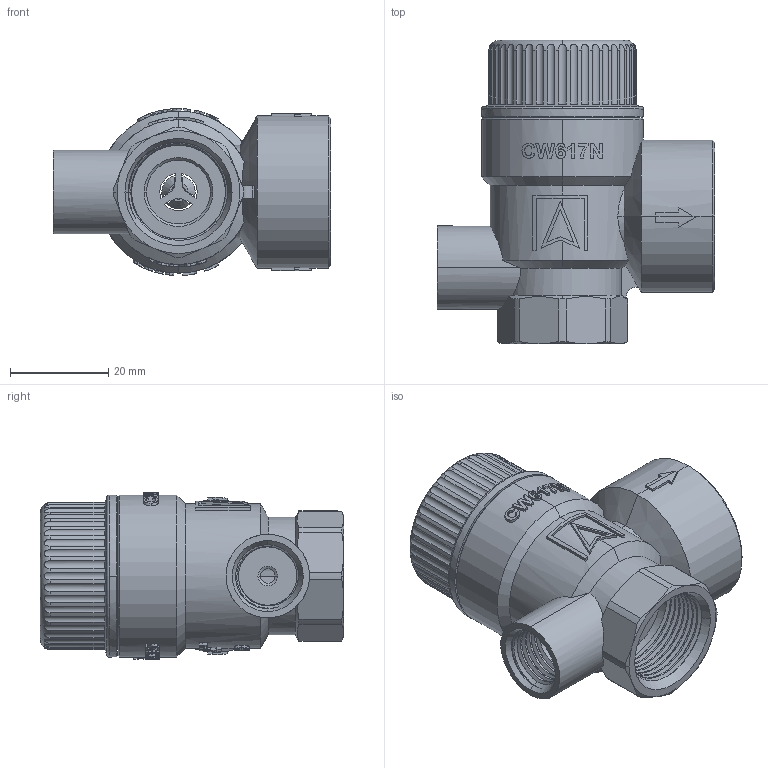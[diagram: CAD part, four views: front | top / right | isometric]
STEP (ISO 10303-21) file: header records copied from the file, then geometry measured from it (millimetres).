
FILE_DESCRIPTION (( 'STEP AP214' ), '1' );
FILE_NAME ('42500.STEP', '2022-09-12T09:50:12', ( '' ), ( '' ), 'SwSTEP 2.0', 'SolidWorks 2022', '' );
FILE_SCHEMA (( 'AUTOMOTIVE_DESIGN' ));
Length unit declared in the file: millimetre
Products named in the file (4): 30005630_1_1; 30915205_1_1; 42500; 90005134_1_1
Assembly tree (3 placements, depth 3):
  42500
    90005134_1_1
      30005630_1_1
      30915205_1_1
Bounding box: 56.5 x 61.85 x 33.98 mm (x, y, z)
Volume: 20197.6 mm3; surface area: 19505.3 mm2
Topology: 2 solids, 2 shells, 810 faces, 2209 edges, 1453 vertices
Faces by surface type: plane 309, cylinder 256, bspline 166, cone 63, torus 16
Entity records: 47263 total; most frequent: CARTESIAN_POINT 19532, ORIENTED_EDGE 4418, DIRECTION 3153, EDGE_CURVE 2209, VERTEX_POINT 1453, AXIS2_PLACEMENT_3D 1071, LINE 1011, VECTOR 1011
